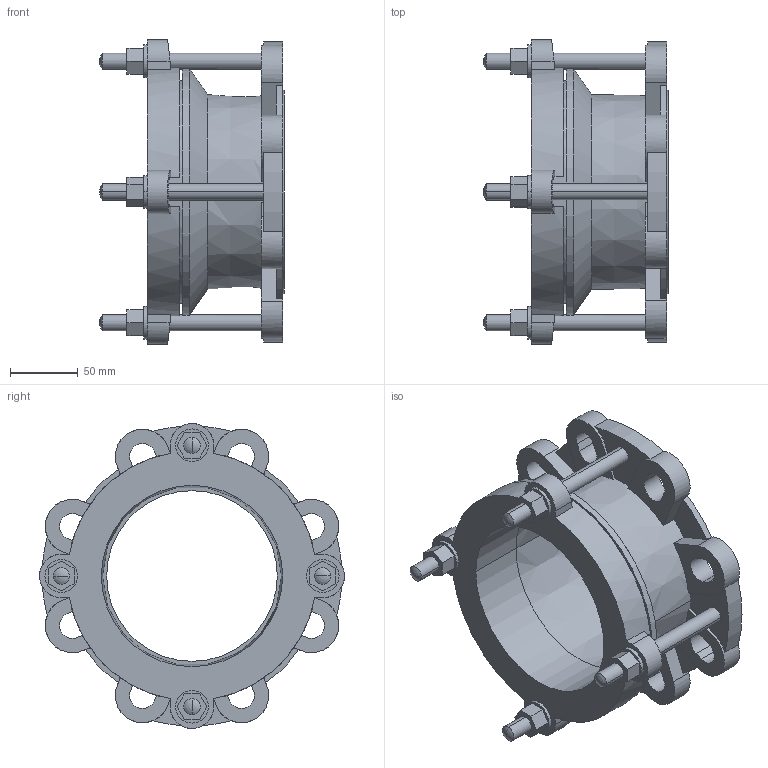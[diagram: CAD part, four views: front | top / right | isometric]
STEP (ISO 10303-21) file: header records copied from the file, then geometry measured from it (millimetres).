
FILE_DESCRIPTION((''),'2;1');
FILE_NAME('BIM_12419_4','2018-10-05T',('MReader'),(''),'CREO PARAMETRIC BY PTC INC, 2016130','CREO PARAMETRIC BY PTC INC, 2016130','');
FILE_SCHEMA(('CONFIG_CONTROL_DESIGN'));
Length unit declared in the file: millimetre
Products named in the file (1): BIM_12419_4
Bounding box: 136 x 224.5 x 224.5 mm (x, y, z)
Volume: 909365.9 mm3; surface area: 204240.9 mm2
Topology: 1 solids, 1 shells, 215 faces, 608 edges, 394 vertices
Faces by surface type: plane 121, cylinder 80, sphere 8, cone 6
Entity records: 7180 total; most frequent: CARTESIAN_POINT 1403, DIRECTION 1212, ORIENTED_EDGE 1200, EDGE_CURVE 600, AXIS2_PLACEMENT_3D 429, VERTEX_POINT 394, VECTOR 354, LINE 354
